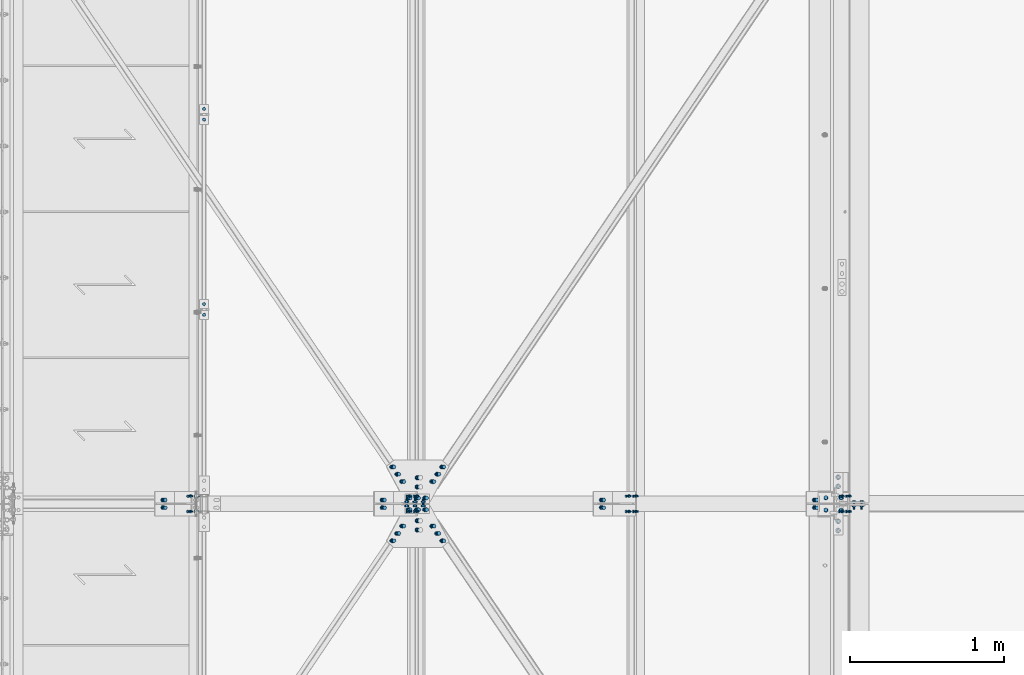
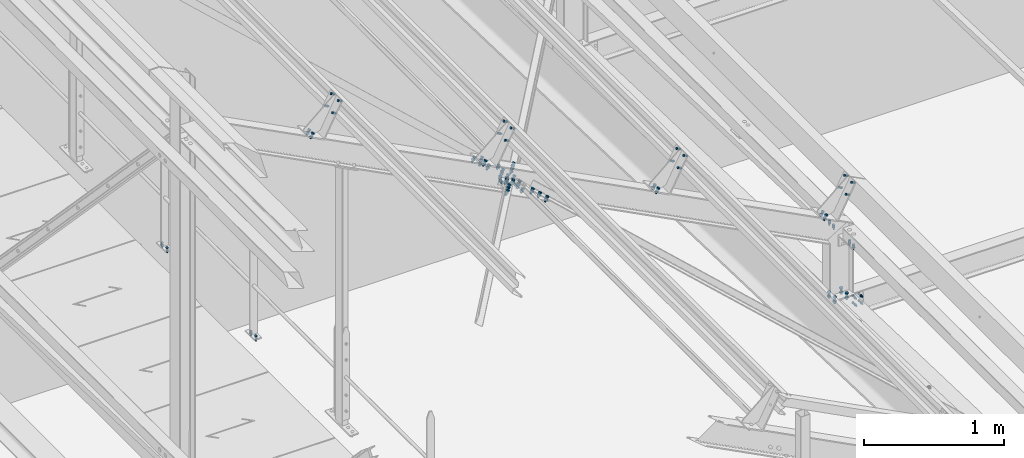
# One storey, part 168 of 362: 24 mechanical fasteners.
"""IFC2X3 building model written with IfcOpenShell, lengths in millimetres."""

from ifc_helpers import new_model, si_unit, frame, frame_2d, origin_with_axes, origin_2d_with_axis, place, context, subcontext, project, spatial, polyline, circle_curve, parameter, trimmed, segment, composite_curve, circle, outline, extrude, source, transform, mapped, material, type_object, element, save


model = new_model("IFC2X3")

# Units and contexts
model_context = context("Model", 3, precision=1e-05, world=origin_with_axes())
body_context = subcontext(model_context, "Body", "Model", "MODEL_VIEW")
ifc_project = project(units=[si_unit("LENGTHUNIT", "METRE", prefix="MILLI"), si_unit("AREAUNIT", "SQUARE_METRE"), si_unit("VOLUMEUNIT", "CUBIC_METRE"), si_unit("MASSUNIT", "GRAM", prefix="KILO"), si_unit("TIMEUNIT", "SECOND"), si_unit("PLANEANGLEUNIT", "RADIAN"), si_unit("SOLIDANGLEUNIT", "STERADIAN"), si_unit("THERMODYNAMICTEMPERATUREUNIT", "DEGREE_CELSIUS"), si_unit("LUMINOUSINTENSITYUNIT", "LUMEN")], contexts=[model_context])

# Site, building, storey
site_placement = place(None, origin_with_axes())
site = spatial("IfcSite", under=ifc_project, at=site_placement, Name="Undefined", CompositionType="ELEMENT")
building_placement = place(site_placement, origin_with_axes())
building = spatial("IfcBuilding", under=site, at=building_placement, Name="Undefined", CompositionType="ELEMENT")
storey_placement = place(building_placement, origin_with_axes())
storey = spatial("IfcBuildingStorey", under=building, at=storey_placement, Name="Undefined", CompositionType="ELEMENT", Elevation=0.0)

# Mechanical fasteners
ifc_material_1 = material(Name="8.8-SB-ZINGUE")
mechanical_fastener_type = type_object("IfcMechanicalFastenerType", Name="Bolt assembly")
shared_shape_1 = source(origin_with_axes(), body_context, "Body", "SweptSolid", [
    extrude(circle(Radius=7.0, at=origin_2d_with_axis()), frame((0.0, -0.100011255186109, 0.0), z_axis=(0.0, 1.0, 0.0), x_axis=(1.0, 0.0, 0.0)), (0.0, 0.0, 1.0), 3.1),
    extrude(circle(Radius=7.0, at=origin_2d_with_axis()), frame((0.0, -9.9, 0.0), z_axis=(0.0, 1.0, 0.0), x_axis=(1.0, 0.0, 0.0)), (0.0, 0.0, 1.0), 10.0),
    extrude(outline(polyline([(10.39230484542, 0.0), (5.19615242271, 9.00000000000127), (-5.19615242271, 9.00000000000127), (-10.39230484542, 0.0), (-5.19615242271, -9.00000000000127), (5.19615242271, -9.00000000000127), (10.39230484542, 0.0)])), frame((0.0, -17.92, 0.0), z_axis=(0.0, 1.0, 0.0), x_axis=(1.0, 0.0, 0.0)), (0.0, 0.0, 1.0), 7.92),
    extrude(circle(Radius=6.0, at=origin_2d_with_axis()), frame((0.0, -10.0000010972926, 0.0), z_axis=(0.0, 1.0, 0.0), x_axis=(1.0, 0.0, 0.0)), (0.0, 0.0, 1.0), 30.0),
    extrude(outline(polyline([(11.5008173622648, 0.0), (5.7504086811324, 9.96000000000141), (-5.7504086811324, 9.96000000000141), (-11.5008173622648, 0.0), (-5.7504086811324, -9.96000000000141), (5.7504086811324, -9.96000000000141), (11.5008173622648, 0.0)])), frame((0.0, 3.00000067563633, 0.0), z_axis=(0.0, 1.0, 0.0), x_axis=(1.0, 0.0, 0.0)), (0.0, 0.0, 1.0), 7.92),
])
mechanical_fastener_1_placement = place(storey_placement, frame((28930.4869404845, 3849.9999403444, 8812.17854909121), z_axis=(0.0, 1.0, 0.0), x_axis=(0.460093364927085, 0.0, 0.887870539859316)))
element("IfcMechanicalFastener", 1, at=mechanical_fastener_1_placement, inside=storey, type_object=mechanical_fastener_type, material=ifc_material_1, Name="Bolt assembly", NominalDiameter=12.0, NominalLength=30.0, context=body_context, shape_type="MappedRepresentation", body=[
    mapped(shared_shape_1, transform((0.0, 0.0, 0.0))),
    mapped(shared_shape_1, transform((99.9999999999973, -1.63709046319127e-11, 7.73070496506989e-12))),
])
shared_shape_2 = source(origin_with_axes(), body_context, "Body", "SweptSolid", [
    extrude(circle(Radius=7.0, at=origin_2d_with_axis()), frame((0.0, -0.10007666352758, 0.0), z_axis=(0.0, 1.0, 0.0), x_axis=(1.0, 0.0, 0.0)), (0.0, 0.0, 1.0), 3.1),
    extrude(circle(Radius=7.0, at=origin_2d_with_axis()), frame((0.0, -9.9, 0.0), z_axis=(0.0, 1.0, 0.0), x_axis=(1.0, 0.0, 0.0)), (0.0, 0.0, 1.0), 10.0),
    extrude(outline(polyline([(10.39230484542, 0.0), (5.19615242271, 9.00000000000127), (-5.19615242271, 9.00000000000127), (-10.39230484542, 0.0), (-5.19615242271, -9.00000000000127), (5.19615242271, -9.00000000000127), (10.39230484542, 0.0)])), frame((0.0, -17.92, 0.0), z_axis=(0.0, 1.0, 0.0), x_axis=(1.0, 0.0, 0.0)), (0.0, 0.0, 1.0), 7.92),
    extrude(circle(Radius=6.0, at=origin_2d_with_axis()), frame((0.0, -10.0000010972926, 0.0), z_axis=(0.0, 1.0, 0.0), x_axis=(1.0, 0.0, 0.0)), (0.0, 0.0, 1.0), 30.0),
    extrude(outline(polyline([(11.5008173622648, 0.0), (5.7504086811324, 9.96000000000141), (-5.7504086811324, 9.96000000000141), (-11.5008173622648, 0.0), (-5.7504086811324, -9.96000000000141), (5.7504086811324, -9.96000000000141), (11.5008173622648, 0.0)])), frame((0.0, 3.00000067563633, 0.0), z_axis=(0.0, 1.0, 0.0), x_axis=(1.0, 0.0, 0.0)), (0.0, 0.0, 1.0), 7.92),
])
mechanical_fastener_2_placement = place(storey_placement, frame((28930.4869404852, 3750.0000596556, 8812.17854909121), z_axis=(0.0, 1.0, 0.0), x_axis=(0.460093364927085, 0.0, 0.887870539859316)))
element("IfcMechanicalFastener", 2, at=mechanical_fastener_2_placement, inside=storey, type_object=mechanical_fastener_type, material=ifc_material_1, Name="Bolt assembly", NominalDiameter=12.0, NominalLength=30.0, context=body_context, shape_type="MappedRepresentation", body=[
    mapped(shared_shape_2, transform((0.0, 0.0, 0.0))),
    mapped(shared_shape_2, transform((99.9999999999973, -1.63709046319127e-11, 7.73070496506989e-12))),
])
shared_shape_3 = source(origin_with_axes(), body_context, "Body", "SweptSolid", [
    extrude(circle(Radius=7.0, at=origin_2d_with_axis()), frame((0.0, -10.0000010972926, 0.0), z_axis=(0.0, 1.0, 0.0), x_axis=(1.0, 0.0, 0.0)), (0.0, 0.0, 1.0), 10.1),
    extrude(outline(polyline([(10.39230484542, 0.0), (5.19615242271, 9.00000000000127), (-5.19615242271, 9.00000000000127), (-10.39230484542, 0.0), (-5.19615242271, -9.00000000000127), (5.19615242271, -9.00000000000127), (10.39230484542, 0.0)])), frame((0.0, -17.92, 0.0), z_axis=(0.0, 1.0, 0.0), x_axis=(1.0, 0.0, 0.0)), (0.0, 0.0, 1.0), 7.92),
    extrude(circle(Radius=6.0, at=origin_2d_with_axis()), frame((0.0, -10.0000010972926, 0.0), z_axis=(0.0, 1.0, 0.0), x_axis=(1.0, 0.0, 0.0)), (0.0, 0.0, 1.0), 40.0),
    extrude(outline(polyline([(11.5008173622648, 0.0), (5.7504086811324, 9.96000000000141), (-5.7504086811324, 9.96000000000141), (-11.5008173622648, 0.0), (-5.7504086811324, -9.96000000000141), (5.7504086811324, -9.96000000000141), (11.5008173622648, 0.0)])), frame((0.0, 0.0, 0.0), z_axis=(0.0, 1.0, 0.0), x_axis=(1.0, 0.0, 0.0)), (0.0, 0.0, 1.0), 7.92),
])
for number, where, z_axis, x_axis, name in (
    (3, (24783.991601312, 5030.00343957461, 8240.00000373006), (-1.0, 0.0, 0.0), (0.0, 1.0, 0.0), "Bolt assembly"),
    (4, (24783.9916023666, 6300.00343957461, 8240.00000285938), (-1.0, 0.0, 0.0), (0.0, 1.0, 0.0), "Bolt assembly"),
):
    element("IfcMechanicalFastener", number, at=place(storey_placement, frame(where, z_axis=z_axis, x_axis=x_axis)), inside=storey, type_object=mechanical_fastener_type, material=ifc_material_1, Name=name, NominalDiameter=12.0, NominalLength=40.0, context=body_context, shape_type="MappedRepresentation", body=[
        mapped(shared_shape_3, transform((0.0, 0.0, 0.0))),
        mapped(shared_shape_3, transform((70.0, -2.91038304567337e-11, 2.18278728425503e-10))),
    ])
ifc_material_2 = material(Name="#_SB-8.8-ZINGUE")
shared_shape_4 = source(origin_with_axes(), body_context, "Body", "SweptSolid", [
    extrude(circle(Radius=9.0, at=origin_2d_with_axis()), frame((0.0, -5.8999542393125, 0.0), z_axis=(0.0, 1.0, 0.0), x_axis=(1.0, 0.0, 0.0)), (0.0, 0.0, 1.0), 6.0),
    extrude(circle(Radius=9.0, at=origin_2d_with_axis()), frame((0.0, -0.10007666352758, 0.0), z_axis=(0.0, 1.0, 0.0), x_axis=(1.0, 0.0, 0.0)), (0.0, 0.0, 1.0), 6.1),
    extrude(outline(polyline([(13.85640646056, 0.0), (6.92820323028, 12.0000000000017), (-6.92820323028, 12.0000000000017), (-13.85640646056, 0.0), (-6.92820323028, -12.0000000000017), (6.92820323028, -12.0000000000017), (13.85640646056, 0.0)])), frame((0.0, -16.5599735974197, 0.0), z_axis=(0.0, 1.0, 0.0), x_axis=(1.0, 0.0, 0.0)), (0.0, 0.0, 1.0), 10.56),
    extrude(circle(Radius=8.0, at=origin_2d_with_axis()), frame((0.0, -5.9999542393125, 0.0), z_axis=(0.0, 1.0, 0.0), x_axis=(1.0, 0.0, 0.0)), (0.0, 0.0, 1.0), 40.0),
    extrude(outline(polyline([(15.3344231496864, 0.0), (7.6672115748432, 13.2800000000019), (-7.6672115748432, 13.2800000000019), (-15.3344231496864, 0.0), (-7.6672115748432, -13.2800000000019), (7.6672115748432, -13.2800000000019), (15.3344231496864, 0.0)])), frame((0.0, 6.0, 0.0), z_axis=(0.0, 1.0, 0.0), x_axis=(1.0, 0.0, 0.0)), (0.0, 0.0, 1.0), 10.56),
])
for number, where, z_axis, x_axis, name in (
    (5, (26273.0146209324, 3655.19011796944, 9840.12687957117), (0.706117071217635, 0.60622555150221, -0.365908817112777), (0.538249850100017, -0.795292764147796, -0.278920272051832), "Bolt assembly"),
    (6, (26273.0065638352, 3944.81028765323, 9840.13105215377), (-0.70611707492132, 0.606225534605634, 0.365908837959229), (0.53824982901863, 0.795292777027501, -0.278920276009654), "Bolt assembly"),
):
    element("IfcMechanicalFastener", number, at=place(storey_placement, frame(where, z_axis=z_axis, x_axis=x_axis)), inside=storey, type_object=mechanical_fastener_type, material=ifc_material_2, Name=name, NominalDiameter=16.0, NominalLength=40.0, context=body_context, shape_type="MappedRepresentation", body=[
        mapped(shared_shape_4, transform((0.0, 0.0, 0.0))),
        mapped(shared_shape_4, transform((60.0, 0.0, 0.0))),
        mapped(shared_shape_4, transform((120.0, 0.0, 0.0))),
    ])
shared_shape_5 = source(origin_with_axes(), body_context, "Body", "SweptSolid", [
    extrude(circle(Radius=7.0, at=origin_2d_with_axis()), frame((0.0, -0.10007666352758, 0.0), z_axis=(0.0, 1.0, 0.0), x_axis=(1.0, 0.0, 0.0)), (0.0, 0.0, 1.0), 1.6),
    extrude(circle(Radius=7.0, at=origin_2d_with_axis()), frame((0.0, -9.9, 0.0), z_axis=(0.0, 1.0, 0.0), x_axis=(1.0, 0.0, 0.0)), (0.0, 0.0, 1.0), 10.0),
    extrude(outline(polyline([(10.39230484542, 0.0), (5.19615242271, 9.00000000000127), (-5.19615242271, 9.00000000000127), (-10.39230484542, 0.0), (-5.19615242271, -9.00000000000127), (5.19615242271, -9.00000000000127), (10.39230484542, 0.0)])), frame((0.0, -17.92, 0.0), z_axis=(0.0, 1.0, 0.0), x_axis=(1.0, 0.0, 0.0)), (0.0, 0.0, 1.0), 7.92),
    extrude(circle(Radius=6.0, at=origin_2d_with_axis()), frame((0.0, -10.0000010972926, 0.0), z_axis=(0.0, 1.0, 0.0), x_axis=(1.0, 0.0, 0.0)), (0.0, 0.0, 1.0), 30.0),
    extrude(outline(polyline([(11.5008173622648, 0.0), (5.7504086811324, 9.96000000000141), (-5.7504086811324, 9.96000000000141), (-11.5008173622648, 0.0), (-5.7504086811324, -9.96000000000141), (5.7504086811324, -9.96000000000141), (11.5008173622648, 0.0)])), frame((0.0, 1.50001896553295, 0.0), z_axis=(0.0, 1.0, 0.0), x_axis=(1.0, 0.0, 0.0)), (0.0, 0.0, 1.0), 7.92),
])
for number, where, z_axis, x_axis, name in (
    (7, (24690.1060148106, 3800.0000596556, 11008.4114172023), (0.0, 1.0, 0.0), (0.460093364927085, 0.0, 0.887870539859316), "Bolt assembly"),
    (8, (27543.3560162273, 3800.0000596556, 9529.86146341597), (0.0, 1.0, 0.0), (0.460093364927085, 0.0, 0.887870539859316), "Bolt assembly"),
    (9, (26116.7310155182, 3800.0000596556, 10269.1364403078), (0.0, 1.0, 0.0), (0.460093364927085, 0.0, 0.887870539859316), "Bolt assembly"),
):
    element("IfcMechanicalFastener", number, at=place(storey_placement, frame(where, z_axis=z_axis, x_axis=x_axis)), inside=storey, type_object=mechanical_fastener_type, material=ifc_material_1, Name=name, NominalDiameter=12.0, NominalLength=30.0, context=body_context, shape_type="MappedRepresentation", body=[
        mapped(shared_shape_5, transform((0.0, 0.0, -50.0))),
        mapped(shared_shape_5, transform((102.00000000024, -2.51020537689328e-10, -50.0))),
        mapped(shared_shape_5, transform((0.0, 0.0, 50.0))),
        mapped(shared_shape_5, transform((102.00000000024, -2.51020537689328e-10, 50.0))),
    ])
shared_shape_6 = source(origin_with_axes(), body_context, "Body", "SweptSolid", [
    extrude(circle(Radius=9.0, at=origin_2d_with_axis()), frame((0.0, -0.0999426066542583, 0.0), z_axis=(0.0, 1.0, 0.0), x_axis=(1.0, 0.0, 0.0)), (0.0, 0.0, 1.0), 8.6),
    extrude(circle(Radius=9.0, at=origin_2d_with_axis()), frame((0.0, -9.9, 0.0), z_axis=(0.0, 1.0, 0.0), x_axis=(1.0, 0.0, 0.0)), (0.0, 0.0, 1.0), 10.0),
    extrude(outline(polyline([(13.85640646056, 0.0), (6.92820323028, 12.0000000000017), (-6.92820323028, 12.0000000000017), (-13.85640646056, 0.0), (-6.92820323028, -12.0000000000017), (6.92820323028, -12.0000000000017), (13.85640646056, 0.0)])), frame((0.0, -20.5600000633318, 0.0), z_axis=(0.0, 1.0, 0.0), x_axis=(1.0, 0.0, 0.0)), (0.0, 0.0, 1.0), 10.56),
    extrude(circle(Radius=8.0, at=origin_2d_with_axis()), frame((0.0, -10.0000010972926, 0.0), z_axis=(0.0, 1.0, 0.0), x_axis=(1.0, 0.0, 0.0)), (0.0, 0.0, 1.0), 40.0),
    extrude(outline(polyline([(15.3344231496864, 0.0), (7.6672115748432, 13.2800000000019), (-7.6672115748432, 13.2800000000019), (-15.3344231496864, 0.0), (-7.6672115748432, -13.2800000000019), (7.6672115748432, -13.2800000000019), (15.3344231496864, 0.0)])), frame((0.0, 8.50005763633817, 0.0), z_axis=(0.0, 1.0, 0.0), x_axis=(1.0, 0.0, 0.0)), (0.0, 0.0, 1.0), 10.56),
])
for number, where, z_axis, x_axis, name in (
    (10, (24522.9168670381, 3800.00003751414, 10859.6539862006), (0.0, 1.0, 0.0), (0.887870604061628, 0.0, -0.460093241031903), "Bolt assembly"),
    (11, (28762.8377191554, 3800.00003751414, 8662.53323728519), (0.0, 1.0, 0.0), (0.887870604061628, 0.0, -0.460093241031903), "Bolt assembly"),
    (12, (27376.1668684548, 3800.00003751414, 9381.10403241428), (0.0, 1.0, 0.0), (0.887870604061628, 0.0, -0.460093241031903), "Bolt assembly"),
    (13, (25949.5418677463, 3800.00003751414, 10120.3790093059), (0.0, 1.0, 0.0), (0.887870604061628, 0.0, -0.460093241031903), "Bolt assembly"),
):
    element("IfcMechanicalFastener", number, at=place(storey_placement, frame(where, z_axis=z_axis, x_axis=x_axis)), inside=storey, type_object=mechanical_fastener_type, material=ifc_material_1, Name=name, NominalDiameter=16.0, NominalLength=40.0, context=body_context, shape_type="MappedRepresentation", body=[
        mapped(shared_shape_6, transform((0.0, 0.0, -25.0))),
        mapped(shared_shape_6, transform((0.0, 0.0, 25.0))),
    ])
shared_shape_7 = source(origin_with_axes(), body_context, "Body", "SweptSolid", [
    extrude(circle(Radius=9.0, at=origin_2d_with_axis()), frame((0.0, 5.90002706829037, 0.0), z_axis=(0.0, 1.0, 0.0), x_axis=(1.0, 0.0, 0.0)), (0.0, 0.0, 1.0), 6.1),
    extrude(circle(Radius=9.0, at=origin_2d_with_axis()), frame((0.0, 0.1, 0.0), z_axis=(0.0, 1.0, 0.0), x_axis=(1.0, 0.0, 0.0)), (0.0, 0.0, 1.0), 6.0),
    extrude(outline(polyline([(13.85640646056, 0.0), (6.92820323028, 12.0000000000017), (-6.92820323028, 12.0000000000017), (-13.85640646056, 0.0), (-6.92820323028, -12.0000000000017), (6.92820323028, -12.0000000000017), (13.85640646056, 0.0)])), frame((0.0, -10.5600019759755, 0.0), z_axis=(0.0, 1.0, 0.0), x_axis=(1.0, 0.0, 0.0)), (0.0, 0.0, 1.0), 10.56),
    extrude(circle(Radius=8.0, at=origin_2d_with_axis()), frame((0.0, 0.0, 0.0), z_axis=(0.0, 1.0, 0.0), x_axis=(1.0, 0.0, 0.0)), (0.0, 0.0, 1.0), 40.0),
    extrude(outline(polyline([(15.3344231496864, 0.0), (7.6672115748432, 13.2800000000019), (-7.6672115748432, 13.2800000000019), (-15.3344231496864, 0.0), (-7.6672115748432, -13.2800000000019), (7.6672115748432, -13.2800000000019), (15.3344231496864, 0.0)])), frame((0.0, 12.0000270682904, 0.0), z_axis=(0.0, 1.0, 0.0), x_axis=(1.0, 0.0, 0.0)), (0.0, 0.0, 1.0), 10.56),
])
for number, where, z_axis, x_axis, name in (
    (14, (26175.0009678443, 3838.00009985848, 9890.91740870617), (0.887870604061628, 0.0, -0.460093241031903), (0.0, -1.0, 0.0), "Bolt assembly"),
    (15, (26175.0009689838, 3762.00030509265, 9890.91740868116), (-0.887870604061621, -1.29999898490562e-08, 0.460093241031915), (0.0, 1.0, 0.0), "Bolt assembly"),
):
    element("IfcMechanicalFastener", number, at=place(storey_placement, frame(where, z_axis=z_axis, x_axis=x_axis)), inside=storey, type_object=mechanical_fastener_type, material=ifc_material_2, Name=name, NominalDiameter=16.0, NominalLength=40.0, context=body_context, shape_type="MappedRepresentation", body=[
        mapped(shared_shape_7, transform((0.0, 0.0, -60.0))),
        mapped(shared_shape_7, transform((0.0, 0.0, 0.0))),
        mapped(shared_shape_7, transform((0.0, 0.0, 60.0))),
    ])
shared_shape_8 = source(origin_with_axes(), body_context, "Body", "SweptSolid", [
    extrude(circle(Radius=9.0, at=origin_2d_with_axis()), frame((0.0, -5.8999542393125, 0.0), z_axis=(0.0, 1.0, 0.0), x_axis=(1.0, 0.0, 0.0)), (0.0, 0.0, 1.0), 6.0),
    extrude(circle(Radius=9.0, at=origin_2d_with_axis()), frame((0.0, -0.0999426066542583, 0.0), z_axis=(0.0, 1.0, 0.0), x_axis=(1.0, 0.0, 0.0)), (0.0, 0.0, 1.0), 6.1),
    extrude(outline(polyline([(13.85640646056, 0.0), (6.92820323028, 12.0000000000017), (-6.92820323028, 12.0000000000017), (-13.85640646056, 0.0), (-6.92820323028, -12.0000000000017), (6.92820323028, -12.0000000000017), (13.85640646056, 0.0)])), frame((0.0, -16.5599735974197, 0.0), z_axis=(0.0, 1.0, 0.0), x_axis=(1.0, 0.0, 0.0)), (0.0, 0.0, 1.0), 10.56),
    extrude(circle(Radius=8.0, at=origin_2d_with_axis()), frame((0.0, -5.9999542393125, 0.0), z_axis=(0.0, 1.0, 0.0), x_axis=(1.0, 0.0, 0.0)), (0.0, 0.0, 1.0), 40.0),
    extrude(outline(polyline([(15.3344231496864, 0.0), (7.6672115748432, 13.2800000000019), (-7.6672115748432, 13.2800000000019), (-15.3344231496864, 0.0), (-7.6672115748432, -13.2800000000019), (7.6672115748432, -13.2800000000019), (15.3344231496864, 0.0)])), frame((0.0, 6.0, 0.0), z_axis=(0.0, 1.0, 0.0), x_axis=(1.0, 0.0, 0.0)), (0.0, 0.0, 1.0), 10.56),
])
for number, where, z_axis, x_axis, name in (
    (16, (26076.9934768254, 3944.81028404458, 9941.70474553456), (-0.706117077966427, -0.606225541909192, 0.365908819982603), (-0.538249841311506, 0.795292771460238, 0.278920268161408), "Bolt assembly"),
    (17, (26076.993481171, 3655.19011796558, 9941.70474553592), (0.706117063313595, -0.606225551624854, -0.365908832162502), (-0.53824984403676, -0.795292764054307, 0.278920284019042), "Bolt assembly"),
):
    element("IfcMechanicalFastener", number, at=place(storey_placement, frame(where, z_axis=z_axis, x_axis=x_axis)), inside=storey, type_object=mechanical_fastener_type, material=ifc_material_2, Name=name, NominalDiameter=16.0, NominalLength=40.0, context=body_context, shape_type="MappedRepresentation", body=[
        mapped(shared_shape_8, transform((0.0, 0.0, 0.0))),
        mapped(shared_shape_8, transform((60.0, 0.0, 0.0))),
        mapped(shared_shape_8, transform((120.0, 0.0, 0.0))),
    ])
shared_shape_9 = source(origin_with_axes(), body_context, "Body", "SweptSolid", [
    extrude(circle(Radius=9.0, at=origin_2d_with_axis()), frame((0.0, -3.89991628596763, 0.0), z_axis=(0.0, 1.0, 0.0), x_axis=(1.0, 0.0, 0.0)), (0.0, 0.0, 1.0), 4.0),
    extrude(circle(Radius=9.0, at=origin_2d_with_axis()), frame((0.0, -0.100011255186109, 0.0), z_axis=(0.0, 1.0, 0.0), x_axis=(1.0, 0.0, 0.0)), (0.0, 0.0, 1.0), 6.1),
    extrude(outline(polyline([(13.85640646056, 0.0), (6.92820323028, 12.0000000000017), (-6.92820323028, 12.0000000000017), (-13.85640646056, 0.0), (-6.92820323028, -12.0000000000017), (6.92820323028, -12.0000000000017), (13.85640646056, 0.0)])), frame((0.0, -14.55994727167, 0.0), z_axis=(0.0, 1.0, 0.0), x_axis=(1.0, 0.0, 0.0)), (0.0, 0.0, 1.0), 10.56),
    extrude(circle(Radius=8.0, at=origin_2d_with_axis()), frame((0.0, -3.99991628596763, 0.0), z_axis=(0.0, 1.0, 0.0), x_axis=(1.0, 0.0, 0.0)), (0.0, 0.0, 1.0), 30.0),
    extrude(outline(polyline([(15.3344231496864, 0.0), (7.6672115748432, 13.2800000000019), (-7.6672115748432, 13.2800000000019), (-15.3344231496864, 0.0), (-7.6672115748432, -13.2800000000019), (7.6672115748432, -13.2800000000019), (15.3344231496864, 0.0)])), frame((0.0, 6.0, 0.0), z_axis=(0.0, 1.0, 0.0), x_axis=(1.0, 0.0, 0.0)), (0.0, 0.0, 1.0), 10.56),
])
for number, where, z_axis, x_axis, name in (
    (18, (26175.001902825, 3909.99864819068, 9890.91692363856), (-0.887870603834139, 2.26363914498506e-05, 0.460093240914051), (2.00950000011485e-05, 0.999999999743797, -1.04209999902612e-05), "Bolt assembly"),
    (19, (26175.00190611, 3690.00175676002, 9890.91692363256), (0.887870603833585, 2.26639154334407e-05, -0.460093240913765), (2.01259999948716e-05, -0.999999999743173, -1.04209999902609e-05), "Bolt assembly"),
):
    element("IfcMechanicalFastener", number, at=place(storey_placement, frame(where, z_axis=z_axis, x_axis=x_axis)), inside=storey, type_object=mechanical_fastener_type, material=ifc_material_2, Name=name, NominalDiameter=16.0, NominalLength=30.0, context=body_context, shape_type="MappedRepresentation", body=[
        mapped(shared_shape_9, transform((0.0, 0.0, 0.0))),
        mapped(shared_shape_9, transform((60.0, 0.0, 0.0))),
    ])
shared_shape_10 = source(origin_with_axes(), body_context, "Body", "SweptSolid", [
    extrude(circle(Radius=9.0, at=origin_2d_with_axis()), frame((0.0, -2.80024280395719, 0.0), z_axis=(0.0, 1.0, 0.0), x_axis=(1.0, 0.0, 0.0)), (0.0, 0.0, 1.0), 5.6),
    extrude(circle(Radius=9.0, at=origin_2d_with_axis()), frame((0.0, 2.89989517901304, 0.0), z_axis=(0.0, 1.0, 0.0), x_axis=(1.0, 0.0, 0.0)), (0.0, 0.0, 1.0), 6.1),
    extrude(circle(Radius=9.0, at=origin_2d_with_axis()), frame((0.0, -8.89990143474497, 0.0), z_axis=(0.0, 1.0, 0.0), x_axis=(1.0, 0.0, 0.0)), (0.0, 0.0, 1.0), 6.0),
    extrude(outline(polyline([(13.85640646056, 0.0), (6.92820323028, 12.0000000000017), (-6.92820323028, 12.0000000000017), (-13.85640646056, 0.0), (-6.92820323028, -12.0000000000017), (6.92820323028, -12.0000000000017), (13.85640646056, 0.0)])), frame((0.0, -19.559901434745, 0.0), z_axis=(0.0, 1.0, 0.0), x_axis=(1.0, 0.0, 0.0)), (0.0, 0.0, 1.0), 10.56),
    extrude(circle(Radius=8.0, at=origin_2d_with_axis()), frame((0.0, -8.99990143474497, 0.0), z_axis=(0.0, 1.0, 0.0), x_axis=(1.0, 0.0, 0.0)), (0.0, 0.0, 1.0), 40.0),
    extrude(outline(polyline([(15.3344231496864, 0.0), (7.6672115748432, 13.2800000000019), (-7.6672115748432, 13.2800000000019), (-15.3344231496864, 0.0), (-7.6672115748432, -13.2800000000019), (7.6672115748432, -13.2800000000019), (15.3344231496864, 0.0)])), frame((0.0, 8.9999337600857, 0.0), z_axis=(0.0, 1.0, 0.0), x_axis=(1.0, 0.0, 0.0)), (0.0, 0.0, 1.0), 10.56),
])
mechanical_fastener_3_placement = place(storey_placement, frame((26156.137117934, 3800.00020530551, 9854.51469059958), z_axis=(-0.887870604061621, -1.29999898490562e-08, 0.460093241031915), x_axis=(0.460093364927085, 0.0, 0.887870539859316)))
element("IfcMechanicalFastener", 20, at=mechanical_fastener_3_placement, inside=storey, type_object=mechanical_fastener_type, material=ifc_material_2, Name="Bolt assembly", NominalDiameter=16.0, NominalLength=40.0, context=body_context, shape_type="MappedRepresentation", body=[
    mapped(shared_shape_10, transform((0.0, 0.0, -60.0))),
    mapped(shared_shape_10, transform((0.0, 0.0, 0.0))),
    mapped(shared_shape_10, transform((0.0, 0.0, 60.0))),
])
shared_shape_11 = source(origin_with_axes(), body_context, "Body", "SweptSolid", [
    extrude(circle(Radius=7.0, at=origin_2d_with_axis()), frame((0.0, -3.89999843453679, 0.0), z_axis=(0.0, 1.0, 0.0), x_axis=(1.0, 0.0, 0.0)), (0.0, 0.0, 1.0), 4.0),
    extrude(outline(composite_curve([segment(polyline([(-7.0, 7.0), (7.0, 7.0)]), True, "CONTINUOUS"), segment(trimmed(circle_curve(frame_2d((7.0, 0.0), x_axis=(0.0, 1.0)), 7.0), [parameter(0.0)], [parameter(3.14159265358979)], False, "PARAMETER"), True, "CONTINUOUS"), segment(polyline([(7.0, -7.0), (-7.0, -7.0)]), True, "CONTINUOUS"), segment(trimmed(circle_curve(frame_2d((-7.0, 0.0), x_axis=(0.0, -1.0)), 7.0), [parameter(0.0)], [parameter(3.14159265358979)], False, "PARAMETER"), True, "DISCONTINUOUS")], self_intersect=False)), frame((0.0, -0.100011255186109, 0.0), z_axis=(0.0, 1.0, 0.0), x_axis=(1.0, 0.0, 0.0)), (0.0, 0.0, 1.0), 10.1),
    extrude(outline(polyline([(10.39230484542, 0.0), (5.19615242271, 9.00000000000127), (-5.19615242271, 9.00000000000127), (-10.39230484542, 0.0), (-5.19615242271, -9.00000000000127), (5.19615242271, -9.00000000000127), (10.39230484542, 0.0)])), frame((0.0, -11.9199984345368, 0.0), z_axis=(0.0, 1.0, 0.0), x_axis=(1.0, 0.0, 0.0)), (0.0, 0.0, 1.0), 7.92),
    extrude(circle(Radius=6.0, at=origin_2d_with_axis()), frame((0.0, -3.99999923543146, 0.0), z_axis=(0.0, 1.0, 0.0), x_axis=(1.0, 0.0, 0.0)), (0.0, 0.0, 1.0), 40.0),
    extrude(circle(Radius=10.8, at=origin_2d_with_axis()), frame((0.0, 10.0000000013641, 0.0), z_axis=(0.0, 1.0, 0.0), x_axis=(1.0, 0.0, 0.0)), (0.0, 0.0, 1.0), 3.96),
    extrude(outline(polyline([(11.5008173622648, 0.0), (5.7504086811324, 9.96000000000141), (-5.7504086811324, 9.96000000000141), (-11.5008173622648, 0.0), (-5.7504086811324, -9.96000000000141), (5.7504086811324, -9.96000000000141), (11.5008173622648, 0.0)])), frame((0.0, 13.96, 0.0), z_axis=(0.0, 1.0, 0.0), x_axis=(1.0, 0.0, 0.0)), (0.0, 0.0, 1.0), 7.92),
])
mechanical_fastener_4_placement = place(storey_placement, frame((28910.0, 3973.5, 8450.0), z_axis=(1.0, 0.0, 0.0), x_axis=(0.0, -1.0, 0.0)))
element("IfcMechanicalFastener", 21, at=mechanical_fastener_4_placement, inside=storey, type_object=mechanical_fastener_type, material=ifc_material_1, Name="Bolt assembly", NominalDiameter=12.0, NominalLength=40.0, context=body_context, shape_type="MappedRepresentation", body=[
    mapped(shared_shape_11, transform((0.0, 0.0, 0.0))),
    mapped(shared_shape_11, transform((60.0, 0.0, 0.0))),
])
shared_shape_12 = source(origin_with_axes(), body_context, "Body", "SweptSolid", [
    extrude(circle(Radius=7.0, at=origin_2d_with_axis()), frame((0.0, -3.89999843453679, 0.0), z_axis=(0.0, 1.0, 0.0), x_axis=(1.0, 0.0, 0.0)), (0.0, 0.0, 1.0), 4.0),
    extrude(outline(composite_curve([segment(polyline([(-7.0, 7.0), (7.0, 7.0)]), True, "CONTINUOUS"), segment(trimmed(circle_curve(frame_2d((7.0, 0.0), x_axis=(0.0, 1.0)), 7.0), [parameter(0.0)], [parameter(3.14159265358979)], False, "PARAMETER"), True, "CONTINUOUS"), segment(polyline([(7.0, -7.0), (-7.0, -7.0)]), True, "CONTINUOUS"), segment(trimmed(circle_curve(frame_2d((-7.0, 0.0), x_axis=(0.0, -1.0)), 7.0), [parameter(0.0)], [parameter(3.14159265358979)], False, "PARAMETER"), True, "DISCONTINUOUS")], self_intersect=False)), frame((0.0, -0.100011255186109, 0.0), z_axis=(0.0, 1.0, 0.0), x_axis=(1.0, 0.0, 0.0)), (0.0, 0.0, 1.0), 10.1),
    extrude(outline(polyline([(10.39230484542, 0.0), (5.19615242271, 9.00000000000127), (-5.19615242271, 9.00000000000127), (-10.39230484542, 0.0), (-5.19615242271, -9.00000000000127), (5.19615242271, -9.00000000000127), (10.39230484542, 0.0)])), frame((0.0, -11.9199984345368, 0.0), z_axis=(0.0, 1.0, 0.0), x_axis=(1.0, 0.0, 0.0)), (0.0, 0.0, 1.0), 7.92),
    extrude(circle(Radius=6.0, at=origin_2d_with_axis()), frame((0.0, -3.99999923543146, 0.0), z_axis=(0.0, 1.0, 0.0), x_axis=(1.0, 0.0, 0.0)), (0.0, 0.0, 1.0), 40.0),
    extrude(circle(Radius=10.8, at=origin_2d_with_axis()), frame((0.0, 10.0000000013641, 0.0), z_axis=(0.0, 1.0, 0.0), x_axis=(1.0, 0.0, 0.0)), (0.0, 0.0, 1.0), 3.96),
    extrude(outline(polyline([(11.5008173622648, 0.0), (5.7504086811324, 9.96000000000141), (-5.7504086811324, 9.96000000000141), (-11.5008173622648, 0.0), (-5.7504086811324, -9.96000000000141), (5.7504086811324, -9.96000000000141), (11.5008173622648, 0.0)])), frame((0.0, 13.96, 0.0), z_axis=(0.0, 1.0, 0.0), x_axis=(1.0, 0.0, 0.0)), (0.0, 0.0, 1.0), 7.92),
])
mechanical_fastener_5_placement = place(storey_placement, frame((28910.0, 3626.5, 8450.0), z_axis=(-1.0, 0.0, 0.0), x_axis=(0.0, 1.0, 0.0)))
element("IfcMechanicalFastener", 22, at=mechanical_fastener_5_placement, inside=storey, type_object=mechanical_fastener_type, material=ifc_material_1, Name="Bolt assembly", NominalDiameter=12.0, NominalLength=40.0, context=body_context, shape_type="MappedRepresentation", body=[
    mapped(shared_shape_12, transform((0.0, 0.0, 0.0))),
    mapped(shared_shape_12, transform((60.0, 0.0, 0.0))),
])
shared_shape_13 = source(origin_with_axes(), body_context, "Body", "SweptSolid", [
    extrude(circle(Radius=9.0, at=origin_2d_with_axis()), frame((0.0, -0.0985788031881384, 0.0), z_axis=(0.0, 1.0, 0.0), x_axis=(1.0, 0.0, 0.0)), (0.0, 0.0, 1.0), 17.3),
    extrude(circle(Radius=9.0, at=origin_2d_with_axis()), frame((0.0, -9.9, 0.0), z_axis=(0.0, 1.0, 0.0), x_axis=(1.0, 0.0, 0.0)), (0.0, 0.0, 1.0), 10.0),
    extrude(outline(polyline([(13.85640646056, 0.0), (6.92820323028, 12.0000000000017), (-6.92820323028, 12.0000000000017), (-13.85640646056, 0.0), (-6.92820323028, -12.0000000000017), (6.92820323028, -12.0000000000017), (13.85640646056, 0.0)])), frame((0.0, -20.5600000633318, 0.0), z_axis=(0.0, 1.0, 0.0), x_axis=(1.0, 0.0, 0.0)), (0.0, 0.0, 1.0), 10.56),
    extrude(circle(Radius=8.0, at=origin_2d_with_axis()), frame((0.0, -10.0000010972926, 0.0), z_axis=(0.0, 1.0, 0.0), x_axis=(1.0, 0.0, 0.0)), (0.0, 0.0, 1.0), 50.0),
    extrude(outline(polyline([(15.3344231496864, 0.0), (7.6672115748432, 13.2800000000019), (-7.6672115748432, 13.2800000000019), (-15.3344231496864, 0.0), (-7.6672115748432, -13.2800000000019), (7.6672115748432, -13.2800000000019), (15.3344231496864, 0.0)])), frame((0.0, 17.2014219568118, 0.0), z_axis=(0.0, 1.0, 0.0), x_axis=(1.0, 0.0, 0.0)), (0.0, 0.0, 1.0), 10.56),
])
mechanical_fastener_6_placement = place(storey_placement, frame((28880.0, 3759.70531343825, 7931.84792272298), z_axis=(-1.0, 0.0, 0.0), x_axis=(3.14103090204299e-11, 0.999506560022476, -0.0314107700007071)))
element("IfcMechanicalFastener", 23, at=mechanical_fastener_6_placement, inside=storey, type_object=mechanical_fastener_type, material=ifc_material_1, Name="Bolt assembly", NominalDiameter=16.0, NominalLength=50.0, context=body_context, shape_type="MappedRepresentation", body=[
    mapped(shared_shape_13, transform((0.0, 0.0, -50.0))),
    mapped(shared_shape_13, transform((79.9999999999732, 9.09494701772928e-13, -50.0))),
    mapped(shared_shape_13, transform((0.0, 0.0, 50.0))),
    mapped(shared_shape_13, transform((79.9999999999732, 9.09494701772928e-13, 50.0))),
])
shared_shape_14 = source(origin_with_axes(), body_context, "Body", "SweptSolid", [
    extrude(circle(Radius=7.0, at=origin_2d_with_axis()), frame((0.0, -2.7999999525, 0.0), z_axis=(0.0, 1.0, 0.0), x_axis=(1.0, 0.0, 0.0)), (0.0, 0.0, 1.0), 5.6),
    extrude(circle(Radius=7.0, at=origin_2d_with_axis()), frame((0.0, 2.90038411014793, 0.0), z_axis=(0.0, 1.0, 0.0), x_axis=(1.0, 0.0, 0.0)), (0.0, 0.0, 1.0), 10.1),
    extrude(circle(Radius=7.0, at=origin_2d_with_axis()), frame((0.0, -12.9004311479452, 0.0), z_axis=(0.0, 1.0, 0.0), x_axis=(1.0, 0.0, 0.0)), (0.0, 0.0, 1.0), 10.0),
    extrude(outline(polyline([(10.39230484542, 0.0), (5.19615242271, 9.00000000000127), (-5.19615242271, 9.00000000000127), (-10.39230484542, 0.0), (-5.19615242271, -9.00000000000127), (5.19615242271, -9.00000000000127), (10.39230484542, 0.0)])), frame((0.0, -20.9204311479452, 0.0), z_axis=(0.0, 1.0, 0.0), x_axis=(1.0, 0.0, 0.0)), (0.0, 0.0, 1.0), 7.92),
    extrude(circle(Radius=6.0, at=origin_2d_with_axis()), frame((0.0, -13.0004311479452, 0.0), z_axis=(0.0, 1.0, 0.0), x_axis=(1.0, 0.0, 0.0)), (0.0, 0.0, 1.0), 50.0),
    extrude(outline(polyline([(11.5008173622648, 0.0), (5.7504086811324, 9.96000000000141), (-5.7504086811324, 9.96000000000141), (-11.5008173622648, 0.0), (-5.7504086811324, -9.96000000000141), (5.7504086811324, -9.96000000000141), (11.5008173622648, 0.0)])), frame((0.0, 13.0004311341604, 0.0), z_axis=(0.0, 1.0, 0.0), x_axis=(1.0, 0.0, 0.0)), (0.0, 0.0, 1.0), 7.92),
])
mechanical_fastener_7_placement = place(storey_placement, frame((29063.0, 3799.99997070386, 7830.53127715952), z_axis=(7.58071938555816e-11, 0.0314107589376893, 0.999506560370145), x_axis=(-1.0, 0.0, 0.0)))
element("IfcMechanicalFastener", 24, at=mechanical_fastener_7_placement, inside=storey, type_object=mechanical_fastener_type, material=ifc_material_1, Name="Bolt assembly", NominalDiameter=12.0, NominalLength=50.0, context=body_context, shape_type="MappedRepresentation", body=[
    mapped(shared_shape_14, transform((0.0, 0.0, -30.0))),
    mapped(shared_shape_14, transform((49.9999999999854, 1.98269844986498e-10, -29.9999999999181))),
    mapped(shared_shape_14, transform((0.0, 0.0, 30.0))),
    mapped(shared_shape_14, transform((50.0000000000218, 1.44154910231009e-10, 30.0000000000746))),
])

save(model, "model.ifc")
